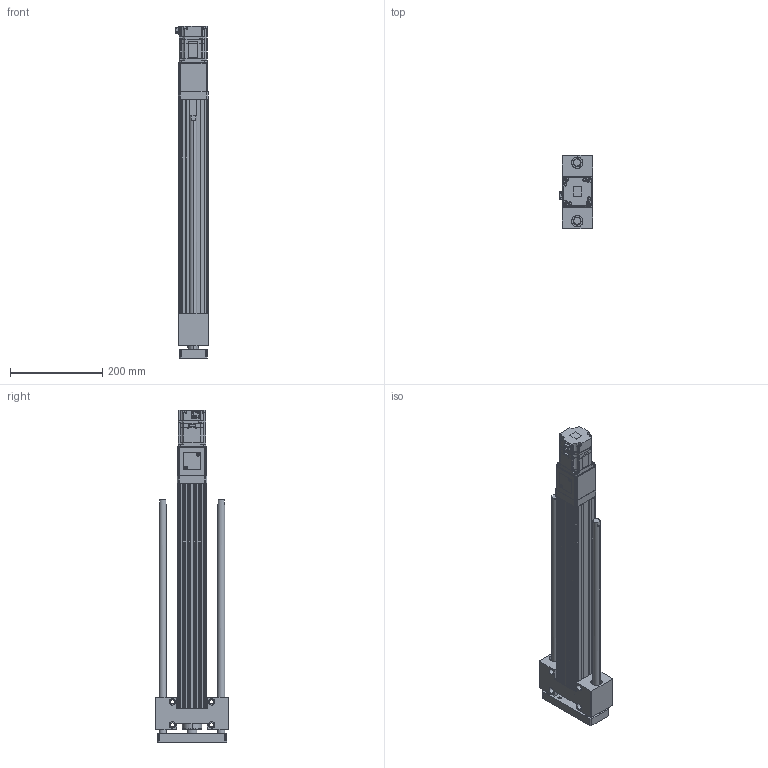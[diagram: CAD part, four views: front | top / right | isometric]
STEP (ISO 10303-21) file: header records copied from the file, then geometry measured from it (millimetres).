
FILE_DESCRIPTION (( 'STEP AP203' ), '1' );
FILE_NAME ('ANS065-HS400-05(10)-W20.STEP', '2019-03-01T04:37:12', ( 'user' ), ( '' ), 'SwSTEP 2.0', 'SolidWorks 2013', '' );
FILE_SCHEMA (( 'CONFIG_CONTROL_DESIGN' ));
Length unit declared in the file: millimetre
Products named in the file (4): ANS065 HS400 VER2; ANS065 ROD ST400 G; sgmjv_02a_a21; ANS065-HS400-05(10)-W20
Assembly tree (3 placements, depth 2):
  ANS065-HS400-05(10)-W20
    ANS065 HS400 VER2
    ANS065 ROD ST400 G
    sgmjv_02a_a21
Bounding box: 72.3 x 160 x 720.6 mm (x, y, z)
Volume: 2442508.3 mm3; surface area: 565083.9 mm2
Topology: 3 solids, 7 shells, 1237 faces, 3245 edges, 2091 vertices
Faces by surface type: plane 697, cylinder 430, cone 110
Entity records: 38305 total; most frequent: CARTESIAN_POINT 6793, DIRECTION 6569, ORIENTED_EDGE 6434, EDGE_CURVE 3217, VECTOR 2207, LINE 2207, AXIS2_PLACEMENT_3D 2181, VERTEX_POINT 2091
